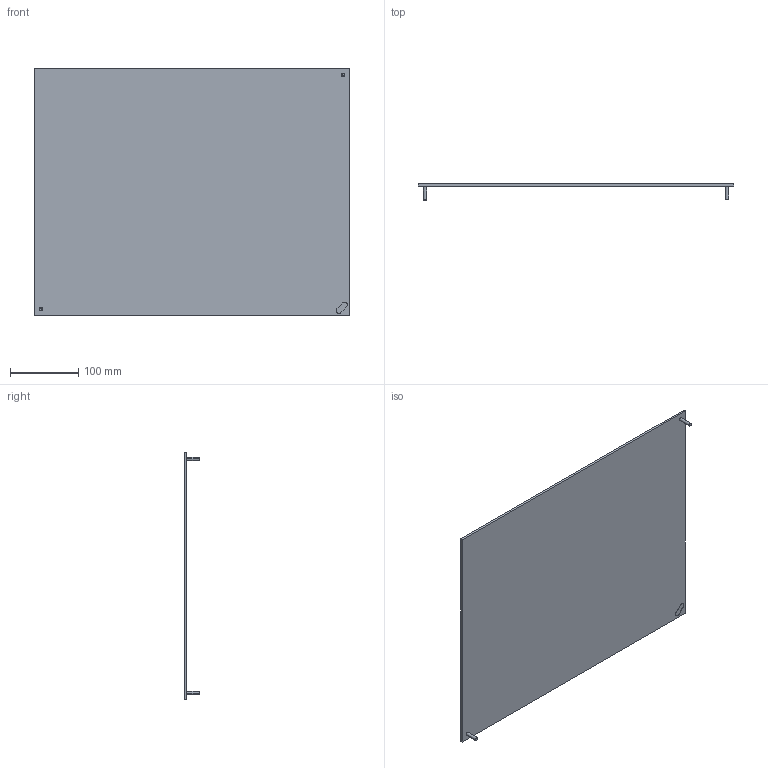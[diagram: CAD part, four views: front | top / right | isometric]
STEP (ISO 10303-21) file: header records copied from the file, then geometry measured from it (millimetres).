
FILE_DESCRIPTION (( 'STEP AP203' ), '1' );
FILE_NAME ('sy3545afp.STEP', '2017-03-09T19:39:55', ( '' ), ( '' ), 'SwSTEP 2.0', 'SolidWorks 2014', '' );
FILE_SCHEMA (( 'CONFIG_CONTROL_DESIGN' ));
Length unit declared in the file: millimetre
Products named in the file (2): 89138470; sy3545afp
Assembly tree (1 placements, depth 2):
  sy3545afp
    89138470
Bounding box: 464 x 23 x 364 mm (x, y, z)
Volume: 507436.8 mm3; surface area: 343457 mm2
Topology: 3 solids, 3 shells, 28 faces, 55 edges, 34 vertices
Faces by surface type: plane 13, cone 8, cylinder 7
Entity records: 909 total; most frequent: DIRECTION 141, CARTESIAN_POINT 121, ORIENTED_EDGE 110, EDGE_CURVE 55, AXIS2_PLACEMENT_3D 54, VERTEX_POINT 34, LINE 33, VECTOR 33
